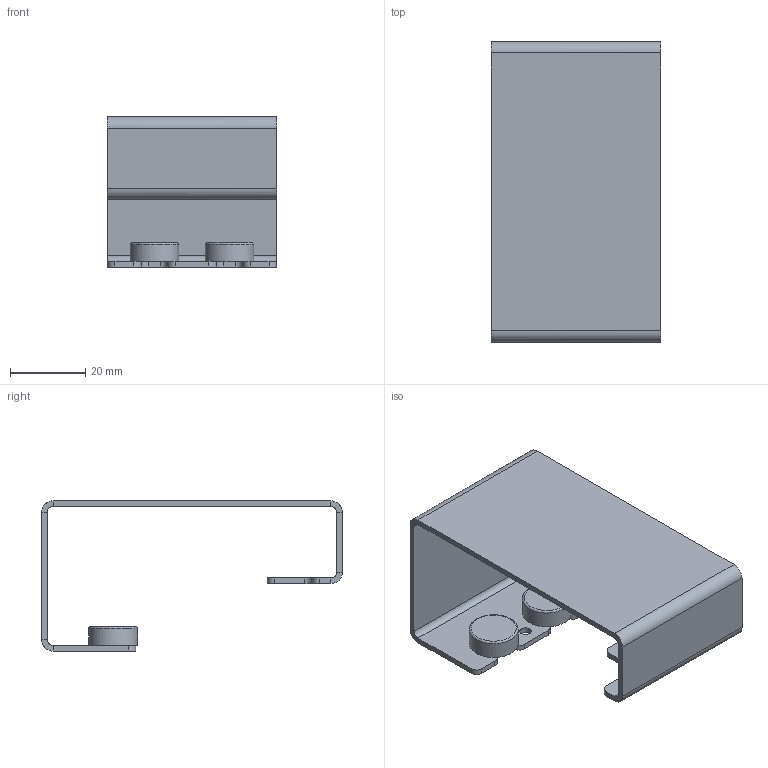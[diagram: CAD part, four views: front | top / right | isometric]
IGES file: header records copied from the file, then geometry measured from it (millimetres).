
Global section: file name: Wieszak DW5; native system: Autodesk Inventor 2018; preprocessor: unknown; author: Verical; date: 20210427.155103; units: millimetre
Bounding box: 45 x 80 x 40 mm (x, y, z)
Volume: 12586.1 mm3; surface area: 16407.5 mm2
Topology: 1 solids, 1 shells, 75 faces, 187 edges, 114 vertices
Faces by surface type: bspline 75
